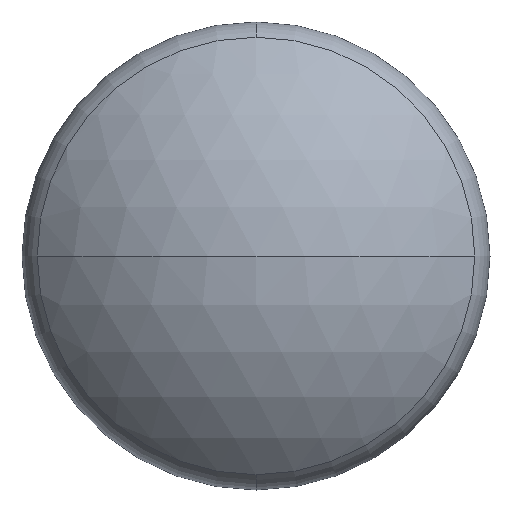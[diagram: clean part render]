
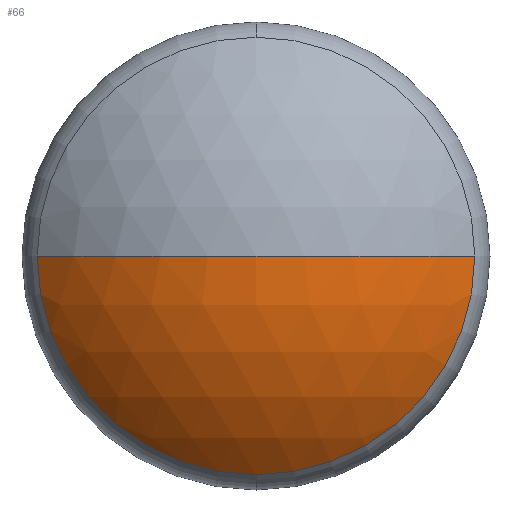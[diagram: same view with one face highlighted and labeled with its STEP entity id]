
A CAD part, front view. The second image highlights one B-rep face of the part: STEP entity #66.
In plain terms, the highlighted spherical face has radius 33.233 mm.
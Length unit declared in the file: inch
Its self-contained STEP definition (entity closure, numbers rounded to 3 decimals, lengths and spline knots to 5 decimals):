
#3 = CARTESIAN_POINT ( 'NONE',  ( 0., -0.35684, 0. ) ) ;
#21 = DIRECTION ( 'NONE',  ( 0., 0., -1. ) ) ;
#37 = AXIS2_PLACEMENT_3D ( 'NONE', #127, #21, #385 ) ;
#44 = EDGE_CURVE ( 'NONE', #180, #276, #302, .T. ) ;
#61 = CIRCLE ( 'NONE', #296, 1.30837 ) ;
#65 = ORIENTED_EDGE ( 'NONE', *, *, #236, .T. ) ;
#66 = ADVANCED_FACE ( 'NONE', ( #250 ), #380, .T. ) ;
#70 = CARTESIAN_POINT ( 'NONE',  ( 0.935, -0.35684, 0. ) ) ;
#78 = CARTESIAN_POINT ( 'NONE',  ( 0., -0.35684, 0. ) ) ;
#117 = ORIENTED_EDGE ( 'NONE', *, *, #313, .T. ) ;
#127 = CARTESIAN_POINT ( 'NONE',  ( 0., 0.55837, 0. ) ) ;
#128 = CARTESIAN_POINT ( 'NONE',  ( 0., 0.55837, 0. ) ) ;
#143 = ORIENTED_EDGE ( 'NONE', *, *, #44, .T. ) ;
#146 = CIRCLE ( 'NONE', #315, 1.30837 ) ;
#164 = CARTESIAN_POINT ( 'NONE',  ( 0., -0.75, 0. ) ) ;
#171 = DIRECTION ( 'NONE',  ( 0., 0., -1. ) ) ;
#180 = VERTEX_POINT ( 'NONE', #320 ) ;
#188 = EDGE_CURVE ( 'NONE', #258, #239, #146, .T. ) ;
#204 = CARTESIAN_POINT ( 'NONE',  ( -0.935, -0.35684, 0. ) ) ;
#208 = CIRCLE ( 'NONE', #362, 0.935 ) ;
#215 = DIRECTION ( 'NONE',  ( 0., 0., -1. ) ) ;
#236 = EDGE_CURVE ( 'NONE', #258, #180, #208, .T. ) ;
#239 = VERTEX_POINT ( 'NONE', #164 ) ;
#248 = ORIENTED_EDGE ( 'NONE', *, *, #188, .F. ) ;
#250 = FACE_OUTER_BOUND ( 'NONE', #275, .T. ) ;
#256 = DIRECTION ( 'NONE',  ( 0., 0., -1. ) ) ;
#258 = VERTEX_POINT ( 'NONE', #204 ) ;
#260 = DIRECTION ( 'NONE',  ( 0., 0., 1. ) ) ;
#275 = EDGE_LOOP ( 'NONE', ( #65, #143, #117, #248 ) ) ;
#276 = VERTEX_POINT ( 'NONE', #70 ) ;
#293 = DIRECTION ( 'NONE',  ( 0., -1., 0. ) ) ;
#296 = AXIS2_PLACEMENT_3D ( 'NONE', #405, #215, #366 ) ;
#301 = DIRECTION ( 'NONE',  ( 0., -1., 0. ) ) ;
#302 = CIRCLE ( 'NONE', #381, 0.935 ) ;
#313 = EDGE_CURVE ( 'NONE', #276, #239, #61, .T. ) ;
#315 = AXIS2_PLACEMENT_3D ( 'NONE', #128, #260, #388 ) ;
#320 = CARTESIAN_POINT ( 'NONE',  ( 0., -0.35684, -0.935 ) ) ;
#362 = AXIS2_PLACEMENT_3D ( 'NONE', #3, #293, #171 ) ;
#366 = DIRECTION ( 'NONE',  ( -1., 0., 0. ) ) ;
#380 = SPHERICAL_SURFACE ( 'NONE', #37, 1.30837 ) ;
#381 = AXIS2_PLACEMENT_3D ( 'NONE', #78, #301, #256 ) ;
#385 = DIRECTION ( 'NONE',  ( -1., 0., 0. ) ) ;
#388 = DIRECTION ( 'NONE',  ( 1., 0., 0. ) ) ;
#405 = CARTESIAN_POINT ( 'NONE',  ( 0., 0.55837, 0. ) ) ;
